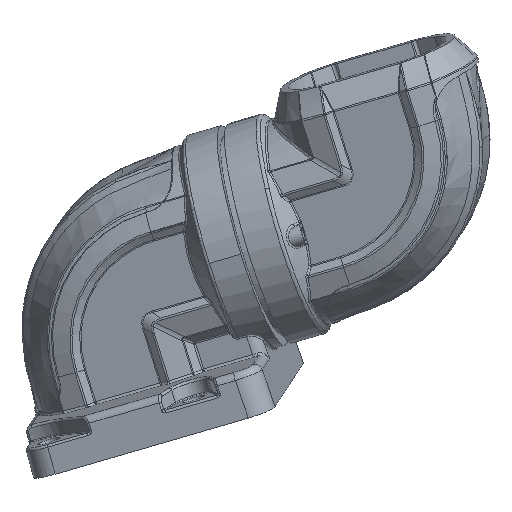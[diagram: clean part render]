
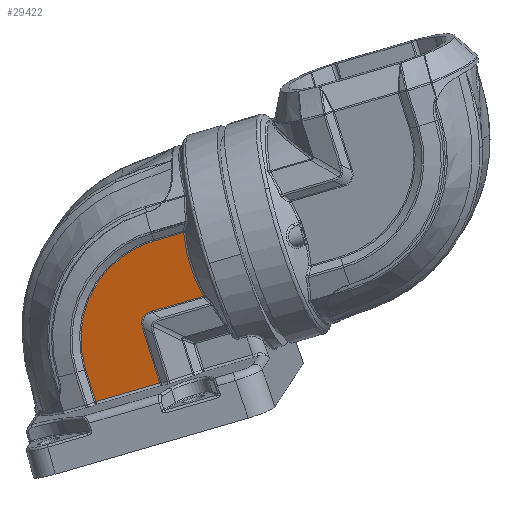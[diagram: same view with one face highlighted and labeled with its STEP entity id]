
A CAD part, front view. The second image highlights one B-rep face of the part: STEP entity #29422.
In plain terms, the highlighted planar face has unit normal (-0.106, -0.981, -0.164) as drawn and (0, -1, 0) by its records, which use the part's own axes.
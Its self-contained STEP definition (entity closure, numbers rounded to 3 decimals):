
#1488 = DIRECTION ( 'NONE',  ( -1., 0., 0. ) ) ;
#2069 = CARTESIAN_POINT ( 'NONE',  ( 18.768, -34.3, -269.232 ) ) ;
#2099 = AXIS2_PLACEMENT_3D ( 'NONE', #14726, #46412, #19247 ) ;
#2219 = CARTESIAN_POINT ( 'NONE',  ( 4.499, -34.3, -244.306 ) ) ;
#3116 = DIRECTION ( 'NONE',  ( 0., 0., 1. ) ) ;
#3983 = LINE ( 'NONE', #55113, #50796 ) ;
#4087 = FACE_OUTER_BOUND ( 'NONE', #56060, .T. ) ;
#4394 = CARTESIAN_POINT ( 'NONE',  ( 17.306, -34.3, -269.115 ) ) ;
#4761 = CARTESIAN_POINT ( 'NONE',  ( 13.268, -34.3, -242.294 ) ) ;
#4936 = EDGE_CURVE ( 'NONE', #54678, #11573, #53325, .T. ) ;
#5636 = PLANE ( 'NONE',  #2099 ) ;
#6600 = CARTESIAN_POINT ( 'NONE',  ( 18.703, -34.3, -295.113 ) ) ;
#6871 =( BOUNDED_CURVE ( )  B_SPLINE_CURVE ( 3, ( #56526, #51942, #2219, #33884 ),
 .UNSPECIFIED., .F., .F. ) 
 B_SPLINE_CURVE_WITH_KNOTS ( ( 4, 4 ),
 ( 0., 1. ),
 .UNSPECIFIED. ) 
 CURVE ( )  GEOMETRIC_REPRESENTATION_ITEM ( )  RATIONAL_B_SPLINE_CURVE ( ( 1., 0.983, 0.983, 1. ) ) 
 REPRESENTATION_ITEM ( '' )  );
#8774 = CARTESIAN_POINT ( 'NONE',  ( 13.384, -34.3, -265.193 ) ) ;
#8969 = CARTESIAN_POINT ( 'NONE',  ( 18.402, -34.3, -269.232 ) ) ;
#9945 = DIRECTION ( 'NONE',  ( 0., 0., 1. ) ) ;
#10186 = CARTESIAN_POINT ( 'NONE',  ( -13.268, -34.3, -242.294 ) ) ;
#10287 = VERTEX_POINT ( 'NONE', #23077 ) ;
#11154 = CARTESIAN_POINT ( 'NONE',  ( 6.068, -34.3, -290.149 ) ) ;
#11573 = VERTEX_POINT ( 'NONE', #12446 ) ;
#12446 = CARTESIAN_POINT ( 'NONE',  ( 41.5, -34.3, -269.232 ) ) ;
#12921 = ORIENTED_EDGE ( 'NONE', *, *, #21992, .F. ) ;
#13306 = CARTESIAN_POINT ( 'NONE',  ( 13.68, -34.3, -266.261 ) ) ;
#13778 = VECTOR ( 'NONE', #3116, 1000. ) ;
#14117 = VERTEX_POINT ( 'NONE', #4761 ) ;
#14726 = CARTESIAN_POINT ( 'NONE',  ( -58.959, -34.3, -282.5 ) ) ;
#15610 = EDGE_CURVE ( 'NONE', #57854, #57983, #3983, .T. ) ;
#15687 = CARTESIAN_POINT ( 'NONE',  ( -3.667, -34.3, -281.453 ) ) ;
#15751 = CARTESIAN_POINT ( 'NONE',  ( -13.268, -34.3, -254.5 ) ) ;
#16962 = EDGE_CURVE ( 'NONE', #10287, #11573, #25848, .T. ) ;
#17197 = ORIENTED_EDGE ( 'NONE', *, *, #40975, .F. ) ;
#17832 = CARTESIAN_POINT ( 'NONE',  ( 14.198, -34.3, -267.248 ) ) ;
#19247 = DIRECTION ( 'NONE',  ( 0., 0., 1. ) ) ;
#20227 = CARTESIAN_POINT ( 'NONE',  ( -11.696, -34.3, -266.889 ) ) ;
#21992 = EDGE_CURVE ( 'NONE', #53011, #54678, #38615, .T. ) ;
#22398 = CARTESIAN_POINT ( 'NONE',  ( 14.952, -34.3, -268.074 ) ) ;
#23077 = CARTESIAN_POINT ( 'NONE',  ( 41.5, -34.3, -295.768 ) ) ;
#24782 = CARTESIAN_POINT ( 'NONE',  ( -13.268, -34.3, -258.66 ) ) ;
#25339 = CARTESIAN_POINT ( 'NONE',  ( -58.959, -34.3, -269.232 ) ) ;
#25406 = DIRECTION ( 'NONE',  ( 0., 0., -1. ) ) ;
#25848 = LINE ( 'NONE', #39137, #13778 ) ;
#26979 = CARTESIAN_POINT ( 'NONE',  ( 15.893, -34.3, -268.673 ) ) ;
#29422 = ADVANCED_FACE ( 'NONE', ( #4087 ), #5636, .F. ) ;
#30425 = VECTOR ( 'NONE', #1488, 1000. ) ;
#30997 = CARTESIAN_POINT ( 'NONE',  ( 13.268, -34.3, -263.732 ) ) ;
#31509 = CARTESIAN_POINT ( 'NONE',  ( 16.943, -34.3, -269.04 ) ) ;
#33146 = CARTESIAN_POINT ( 'NONE',  ( -58.959, -34.3, -295.768 ) ) ;
#33731 = ORIENTED_EDGE ( 'NONE', *, *, #16962, .T. ) ;
#33776 = VECTOR ( 'NONE', #25406, 1000. ) ;
#33884 = CARTESIAN_POINT ( 'NONE',  ( 13.268, -34.3, -242.294 ) ) ;
#35872 = CARTESIAN_POINT ( 'NONE',  ( 13.289, -34.3, -264.464 ) ) ;
#36077 = CARTESIAN_POINT ( 'NONE',  ( 18.036, -34.3, -269.211 ) ) ;
#38139 = ORIENTED_EDGE ( 'NONE', *, *, #58166, .F. ) ;
#38246 = CARTESIAN_POINT ( 'NONE',  ( 14.173, -34.3, -293.803 ) ) ;
#38615 = B_SPLINE_CURVE_WITH_KNOTS ( 'NONE', 3,
 ( #49376, #58528, #35872, #8774, #40393, #13306, #44984, #17832, #49568, #22398, #54137, #26979, #58723, #31509, #4394, #36077, #8969, #40588 ),
 .UNSPECIFIED., .F., .F.,
 ( 4, 2, 2, 2, 2, 2, 2, 2, 4 ),
 ( 0., 0.125, 0.25, 0.375, 0.5, 0.625, 0.75, 0.875, 1. ),
 .UNSPECIFIED. ) ;
#39137 = CARTESIAN_POINT ( 'NONE',  ( 41.5, -34.3, -275.408 ) ) ;
#40393 = CARTESIAN_POINT ( 'NONE',  ( 13.459, -34.3, -265.556 ) ) ;
#40588 = CARTESIAN_POINT ( 'NONE',  ( 18.768, -34.3, -269.232 ) ) ;
#40975 = EDGE_CURVE ( 'NONE', #57983, #14117, #6871, .T. ) ;
#41215 = VECTOR ( 'NONE', #43152, 1000. ) ;
#41432 = B_SPLINE_CURVE_WITH_KNOTS ( 'NONE', 5,
 ( #56333, #51759, #6600, #38246, #11154, #42794, #15687, #47379, #20227, #51954, #24782, #56541 ),
 .UNSPECIFIED., .F., .F.,
 ( 6, 3, 3, 6 ),
 ( 0., 0.358, 0.679, 1. ),
 .UNSPECIFIED. ) ;
#42794 = CARTESIAN_POINT ( 'NONE',  ( -0.785, -34.3, -284.512 ) ) ;
#43152 = DIRECTION ( 'NONE',  ( 1., 0., 0. ) ) ;
#44984 = CARTESIAN_POINT ( 'NONE',  ( 13.826, -34.3, -266.605 ) ) ;
#45820 = LINE ( 'NONE', #56977, #33776 ) ;
#46274 = CARTESIAN_POINT ( 'NONE',  ( 28., -34.3, -295.768 ) ) ;
#46412 = DIRECTION ( 'NONE',  ( 0., 1., 0. ) ) ;
#46747 = EDGE_CURVE ( 'NONE', #10287, #58855, #54533, .T. ) ;
#47144 = ORIENTED_EDGE ( 'NONE', *, *, #15610, .F. ) ;
#47331 = ORIENTED_EDGE ( 'NONE', *, *, #46747, .F. ) ;
#47379 = CARTESIAN_POINT ( 'NONE',  ( -8.597, -34.3, -274.679 ) ) ;
#49376 = CARTESIAN_POINT ( 'NONE',  ( 13.268, -34.3, -263.732 ) ) ;
#49568 = CARTESIAN_POINT ( 'NONE',  ( 14.426, -34.3, -267.548 ) ) ;
#50796 = VECTOR ( 'NONE', #9945, 1000. ) ;
#51297 = EDGE_CURVE ( 'NONE', #14117, #53011, #45820, .T. ) ;
#51759 = CARTESIAN_POINT ( 'NONE',  ( 23.346, -34.3, -295.768 ) ) ;
#51942 = CARTESIAN_POINT ( 'NONE',  ( -4.499, -34.3, -244.306 ) ) ;
#51954 = CARTESIAN_POINT ( 'NONE',  ( -12.744, -34.3, -262.82 ) ) ;
#53011 = VERTEX_POINT ( 'NONE', #30997 ) ;
#53325 = LINE ( 'NONE', #25339, #41215 ) ;
#54046 = ORIENTED_EDGE ( 'NONE', *, *, #51297, .F. ) ;
#54137 = CARTESIAN_POINT ( 'NONE',  ( 15.251, -34.3, -268.301 ) ) ;
#54533 = LINE ( 'NONE', #33146, #30425 ) ;
#54678 = VERTEX_POINT ( 'NONE', #2069 ) ;
#55113 = CARTESIAN_POINT ( 'NONE',  ( -13.268, -34.3, -282.5 ) ) ;
#56060 = EDGE_LOOP ( 'NONE', ( #57897, #12921, #54046, #17197, #47144, #38139, #47331, #33731 ) ) ;
#56333 = CARTESIAN_POINT ( 'NONE',  ( 28., -34.3, -295.768 ) ) ;
#56526 = CARTESIAN_POINT ( 'NONE',  ( -13.268, -34.3, -242.294 ) ) ;
#56541 = CARTESIAN_POINT ( 'NONE',  ( -13.268, -34.3, -254.5 ) ) ;
#56977 = CARTESIAN_POINT ( 'NONE',  ( 13.268, -34.3, -282.5 ) ) ;
#57854 = VERTEX_POINT ( 'NONE', #15751 ) ;
#57897 = ORIENTED_EDGE ( 'NONE', *, *, #4936, .F. ) ;
#57983 = VERTEX_POINT ( 'NONE', #10186 ) ;
#58166 = EDGE_CURVE ( 'NONE', #58855, #57854, #41432, .T. ) ;
#58528 = CARTESIAN_POINT ( 'NONE',  ( 13.268, -34.3, -264.098 ) ) ;
#58723 = CARTESIAN_POINT ( 'NONE',  ( 16.237, -34.3, -268.819 ) ) ;
#58855 = VERTEX_POINT ( 'NONE', #46274 ) ;
